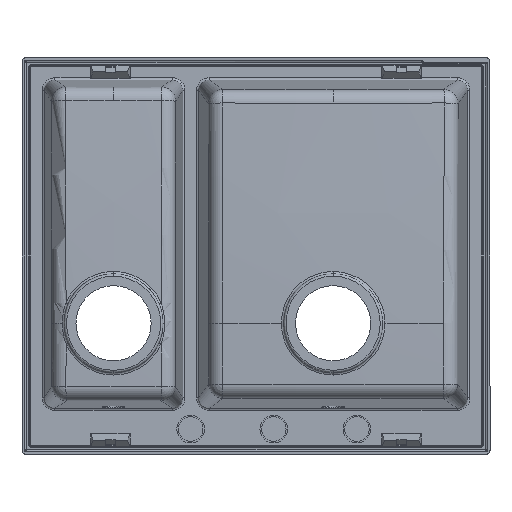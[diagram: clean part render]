
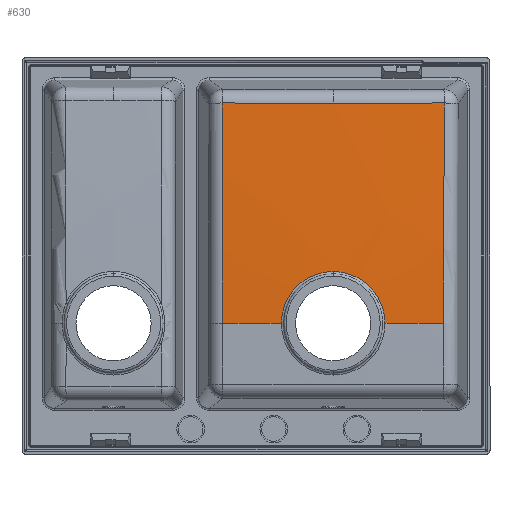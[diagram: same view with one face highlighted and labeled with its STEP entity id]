
A CAD part, front view. The second image highlights one B-rep face of the part: STEP entity #630.
In plain terms, the highlighted spherical face has radius 5008 mm.
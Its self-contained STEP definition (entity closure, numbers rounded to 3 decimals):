
#90 = CIRCLE ( 'NONE', #11777, 5008. ) ;
#153 = DIRECTION ( 'NONE',  ( 0., 0., -1. ) ) ;
#251 = SPHERICAL_SURFACE ( 'NONE', #6410, 5008. ) ;
#570 = VERTEX_POINT ( 'NONE', #16213 ) ;
#630 = ADVANCED_FACE ( 'NONE', ( #3603 ), #251, .T. ) ;
#650 = EDGE_CURVE ( 'NONE', #9651, #570, #3223, .T. ) ;
#689 = AXIS2_PLACEMENT_3D ( 'NONE', #3577, #12331, #4843 ) ;
#1400 = CARTESIAN_POINT ( 'NONE',  ( 97.5, 4800., -85. ) ) ;
#1704 = ORIENTED_EDGE ( 'NONE', *, *, #5223, .F. ) ;
#1732 = CARTESIAN_POINT ( 'NONE',  ( 97.5, 4800., -85. ) ) ;
#1910 = DIRECTION ( 'NONE',  ( -0.998, -0.07, 0. ) ) ;
#2316 = DIRECTION ( 'NONE',  ( 0.998, -0.07, 0. ) ) ;
#2367 = ORIENTED_EDGE ( 'NONE', *, *, #2438, .F. ) ;
#2438 = EDGE_CURVE ( 'NONE', #12733, #11278, #12969, .T. ) ;
#2445 = CIRCLE ( 'NONE', #10165, 4968.677 ) ;
#2550 = AXIS2_PLACEMENT_3D ( 'NONE', #9829, #2316, #11086 ) ;
#2693 = DIRECTION ( 'NONE',  ( 1., 0., 0. ) ) ;
#2948 = EDGE_LOOP ( 'NONE', ( #4822, #15347, #3422, #13830, #2367, #8342, #13175, #1704 ) ) ;
#2976 = DIRECTION ( 'NONE',  ( 0., -0.07, 0.998 ) ) ;
#3015 = DIRECTION ( 'NONE',  ( 0., -1., 0. ) ) ;
#3217 = EDGE_CURVE ( 'NONE', #9235, #9862, #4371, .T. ) ;
#3223 = CIRCLE ( 'NONE', #7244, 5008. ) ;
#3422 = ORIENTED_EDGE ( 'NONE', *, *, #8031, .T. ) ;
#3484 = DIRECTION ( 'NONE',  ( 0., -0.07, 0.998 ) ) ;
#3577 = CARTESIAN_POINT ( 'NONE',  ( 97.5, -207.572, -85. ) ) ;
#3603 = FACE_OUTER_BOUND ( 'NONE', #2948, .T. ) ;
#3616 = AXIS2_PLACEMENT_3D ( 'NONE', #10491, #2976, #11733 ) ;
#4002 = CARTESIAN_POINT ( 'NONE',  ( 97.5, 4800., -85. ) ) ;
#4371 = CIRCLE ( 'NONE', #3616, 4968.677 ) ;
#4586 = CARTESIAN_POINT ( 'NONE',  ( 97.5, -207.572, -85. ) ) ;
#4680 = CARTESIAN_POINT ( 'NONE',  ( 97.5, -200.265, 193.228 ) ) ;
#4822 = ORIENTED_EDGE ( 'NONE', *, *, #650, .F. ) ;
#4843 = DIRECTION ( 'NONE',  ( 0., 0., 1. ) ) ;
#5024 = EDGE_CURVE ( 'NONE', #10830, #11278, #90, .T. ) ;
#5223 = EDGE_CURVE ( 'NONE', #570, #9235, #12265, .T. ) ;
#5282 = DIRECTION ( 'NONE',  ( 0., 1., 0. ) ) ;
#5354 = CARTESIAN_POINT ( 'NONE',  ( 32.039, -207.572, -85. ) ) ;
#5864 = DIRECTION ( 'NONE',  ( 0., 0., 1. ) ) ;
#5909 = CARTESIAN_POINT ( 'NONE',  ( 237.328, -206.048, -85. ) ) ;
#6037 = CARTESIAN_POINT ( 'NONE',  ( -42.871, -198.287, 193.367 ) ) ;
#6193 = CARTESIAN_POINT ( 'NONE',  ( 162.961, -207.572, -85. ) ) ;
#6410 = AXIS2_PLACEMENT_3D ( 'NONE', #1400, #153, #2693 ) ;
#6561 = CIRCLE ( 'NONE', #689, 65.461 ) ;
#7244 = AXIS2_PLACEMENT_3D ( 'NONE', #4002, #12746, #5282 ) ;
#7753 = AXIS2_PLACEMENT_3D ( 'NONE', #4586, #13328, #5864 ) ;
#8031 = EDGE_CURVE ( 'NONE', #10358, #10830, #16108, .T. ) ;
#8342 = ORIENTED_EDGE ( 'NONE', *, *, #9215, .F. ) ;
#9215 = EDGE_CURVE ( 'NONE', #9862, #12733, #2445, .T. ) ;
#9235 = VERTEX_POINT ( 'NONE', #6037 ) ;
#9432 = CARTESIAN_POINT ( 'NONE',  ( -390.001, 4765.911, -85. ) ) ;
#9651 = VERTEX_POINT ( 'NONE', #5354 ) ;
#9829 = CARTESIAN_POINT ( 'NONE',  ( 585.001, 4765.911, -85. ) ) ;
#9862 = VERTEX_POINT ( 'NONE', #4680 ) ;
#10165 = AXIS2_PLACEMENT_3D ( 'NONE', #10777, #3484, #12251 ) ;
#10358 = VERTEX_POINT ( 'NONE', #15370 ) ;
#10491 = CARTESIAN_POINT ( 'NONE',  ( 97.5, 4756.308, 539.826 ) ) ;
#10527 = DIRECTION ( 'NONE',  ( 0., 0., 1. ) ) ;
#10689 = DIRECTION ( 'NONE',  ( 0.07, -0.998, 0. ) ) ;
#10777 = CARTESIAN_POINT ( 'NONE',  ( 97.5, 4756.308, 539.826 ) ) ;
#10830 = VERTEX_POINT ( 'NONE', #6193 ) ;
#11086 = DIRECTION ( 'NONE',  ( 0.07, 0.998, 0. ) ) ;
#11278 = VERTEX_POINT ( 'NONE', #5909 ) ;
#11384 = EDGE_CURVE ( 'NONE', #9651, #10358, #6561, .T. ) ;
#11733 = DIRECTION ( 'NONE',  ( 0., -0.998, -0.07 ) ) ;
#11777 = AXIS2_PLACEMENT_3D ( 'NONE', #1732, #10527, #3015 ) ;
#12251 = DIRECTION ( 'NONE',  ( 0., -0.998, -0.07 ) ) ;
#12265 = CIRCLE ( 'NONE', #15946, 4984.099 ) ;
#12331 = DIRECTION ( 'NONE',  ( 0., 1., 0. ) ) ;
#12733 = VERTEX_POINT ( 'NONE', #15718 ) ;
#12746 = DIRECTION ( 'NONE',  ( 0., 0., -1. ) ) ;
#12969 = CIRCLE ( 'NONE', #2550, 4984.099 ) ;
#13175 = ORIENTED_EDGE ( 'NONE', *, *, #3217, .F. ) ;
#13328 = DIRECTION ( 'NONE',  ( 0., 1., 0. ) ) ;
#13830 = ORIENTED_EDGE ( 'NONE', *, *, #5024, .T. ) ;
#15347 = ORIENTED_EDGE ( 'NONE', *, *, #11384, .T. ) ;
#15370 = CARTESIAN_POINT ( 'NONE',  ( 97.5, -207.572, -19.539 ) ) ;
#15718 = CARTESIAN_POINT ( 'NONE',  ( 237.871, -198.287, 193.367 ) ) ;
#15946 = AXIS2_PLACEMENT_3D ( 'NONE', #9432, #1910, #10689 ) ;
#16108 = CIRCLE ( 'NONE', #7753, 65.461 ) ;
#16213 = CARTESIAN_POINT ( 'NONE',  ( -42.328, -206.048, -85. ) ) ;
